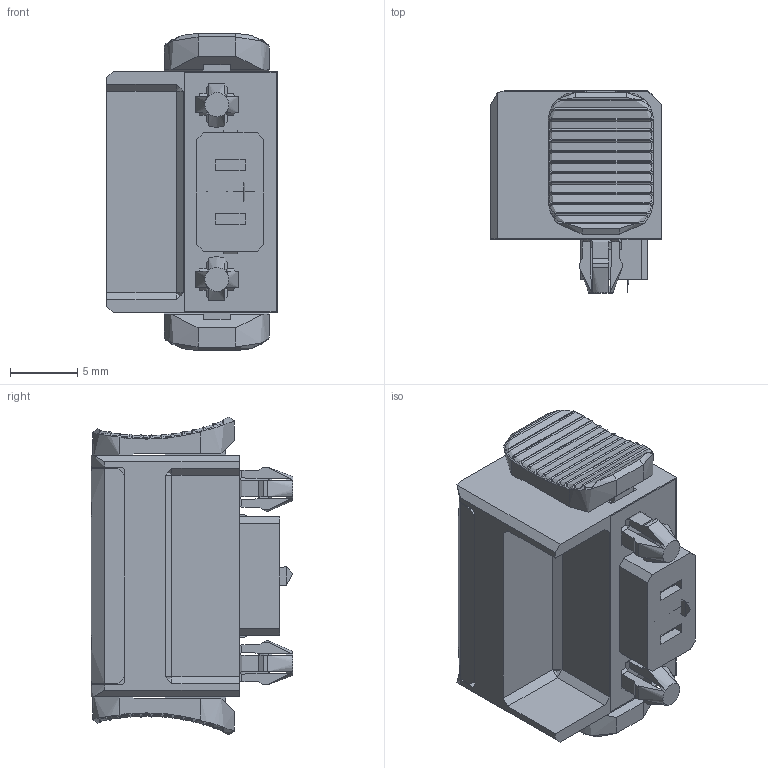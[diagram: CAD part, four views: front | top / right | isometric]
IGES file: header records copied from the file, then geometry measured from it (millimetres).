
Global section: file name: 21.02.212.113.2; native system: unknown; preprocessor: unknown; author: unknown; organization: unknown; date: 20221116.074001; units: millimetre
Bounding box: 12.7 x 15.02 x 23.62 mm (x, y, z)
Volume: 2323.3 mm3; surface area: 2153.5 mm2
Topology: 1 solids, 1 shells, 798 faces, 2150 edges, 1347 vertices
Faces by surface type: bspline 798
